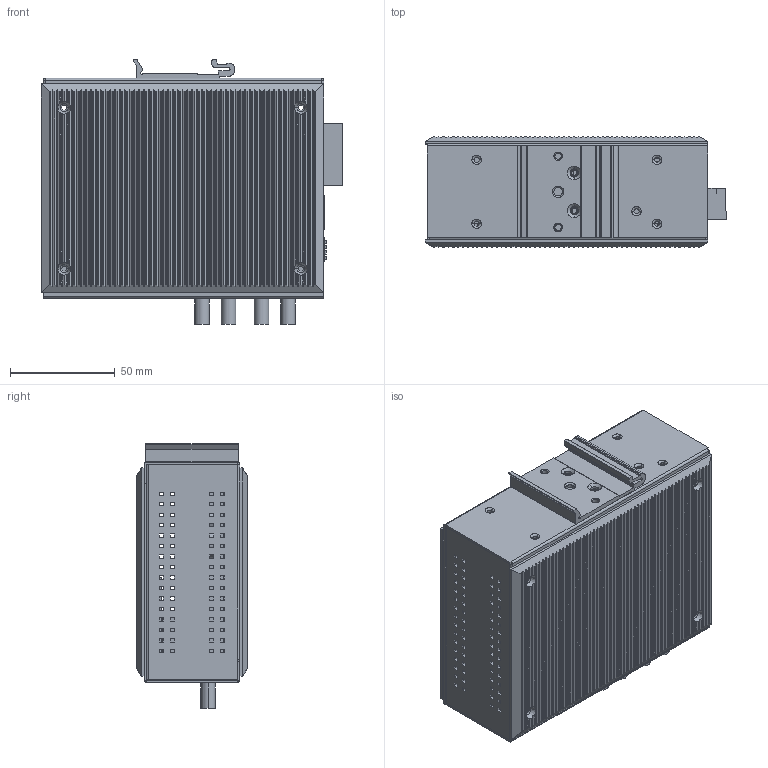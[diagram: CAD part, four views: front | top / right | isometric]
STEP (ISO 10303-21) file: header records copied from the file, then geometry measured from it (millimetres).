
FILE_DESCRIPTION((''),'2;1');
FILE_NAME('EDS-405A-MM-ST','2016-02-15T',('Vincent_Huang'),('PTC'),'PRO/ENGINEER BY PARAMETRIC TECHNOLOGY CORPORATION, 2013050','PRO/ENGINEER BY PARAMETRIC TECHNOLOGY CORPORATION, 2013050','');
FILE_SCHEMA(('CONFIG_CONTROL_DESIGN'));
Products named in the file (1): EDS-405A-MM-ST
Bounding box: 144.05 x 52.98 x 126.15 mm (x, y, z)
Volume: 189320.5 mm3; surface area: 184290.9 mm2
Topology: 2 solids, 18 shells, 2217 faces, 5902 edges, 3854 vertices
Faces by surface type: plane 1373, cylinder 732, cone 46, torus 42, bspline 24
Entity records: 77461 total; most frequent: CARTESIAN_POINT 14187, ORIENTED_EDGE 11788, DIRECTION 10760, EDGE_CURVE 5902, VECTOR 4066, LINE 4066, VERTEX_POINT 3854, AXIS2_PLACEMENT_3D 3347
